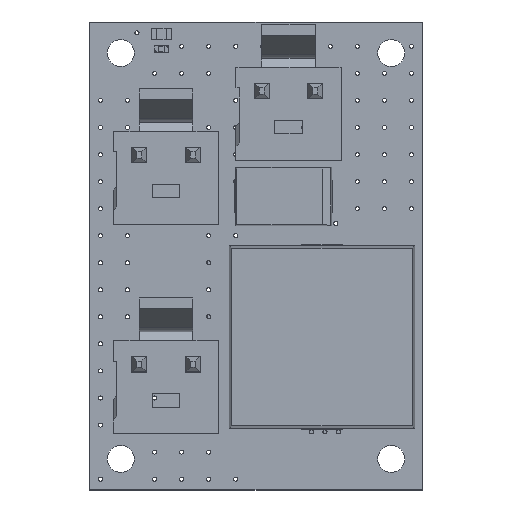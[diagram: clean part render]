
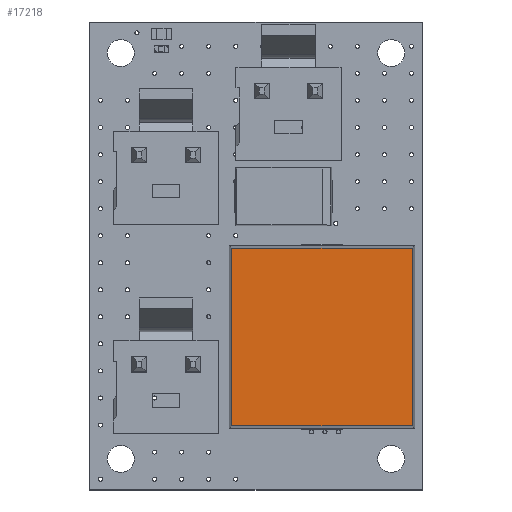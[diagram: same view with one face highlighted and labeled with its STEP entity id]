
A CAD part, top view. The second image highlights one B-rep face of the part: STEP entity #17218.
In plain terms, the highlighted planar face has unit normal (0, 0, 1).
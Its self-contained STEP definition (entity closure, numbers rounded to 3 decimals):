
#1129=PLANE('',#18861);
#1879=FACE_OUTER_BOUND('',#3095,.T.);
#3095=EDGE_LOOP('',(#13332,#13333,#13334,#13335));
#4319=LINE('',#26413,#5838);
#4329=LINE('',#26431,#5848);
#4333=LINE('',#26440,#5852);
#4334=LINE('',#26441,#5853);
#5838=VECTOR('',#21913,1.);
#5848=VECTOR('',#21931,1.);
#5852=VECTOR('',#21941,1.);
#5853=VECTOR('',#21942,1.);
#7941=VERTEX_POINT('',#26410);
#7942=VERTEX_POINT('',#26412);
#7946=VERTEX_POINT('',#26429);
#7948=VERTEX_POINT('',#26439);
#9850=EDGE_CURVE('',#7941,#7942,#4319,.T.);
#9860=EDGE_CURVE('',#7941,#7946,#4329,.T.);
#9864=EDGE_CURVE('',#7946,#7948,#4333,.T.);
#9865=EDGE_CURVE('',#7942,#7948,#4334,.T.);
#13332=ORIENTED_EDGE('',*,*,#9850,.F.);
#13333=ORIENTED_EDGE('',*,*,#9860,.T.);
#13334=ORIENTED_EDGE('',*,*,#9864,.T.);
#13335=ORIENTED_EDGE('',*,*,#9865,.F.);
#17218=ADVANCED_FACE('',(#1879),#1129,.T.);
#18861=AXIS2_PLACEMENT_3D('',#26438,#21939,#21940);
#21913=DIRECTION('',(0.,1.,0.));
#21931=DIRECTION('',(1.,0.,0.));
#21939=DIRECTION('center_axis',(0.,0.,1.));
#21940=DIRECTION('ref_axis',(1.,0.,0.));
#21941=DIRECTION('',(0.,1.,0.));
#21942=DIRECTION('',(1.,0.,0.));
#26410=CARTESIAN_POINT('',(-6.578,-6.678,7.));
#26412=CARTESIAN_POINT('',(-6.578,6.678,7.));
#26413=CARTESIAN_POINT('',(-6.578,-6.85,7.));
#26429=CARTESIAN_POINT('',(6.578,-6.678,7.));
#26431=CARTESIAN_POINT('',(-6.75,-6.678,7.));
#26438=CARTESIAN_POINT('Origin',(-6.75,-6.85,7.));
#26439=CARTESIAN_POINT('',(6.578,6.678,7.));
#26440=CARTESIAN_POINT('',(6.578,-6.85,7.));
#26441=CARTESIAN_POINT('',(-6.75,6.678,7.));
